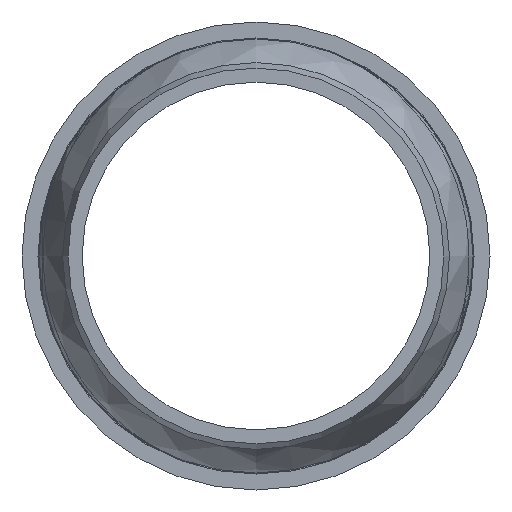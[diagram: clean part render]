
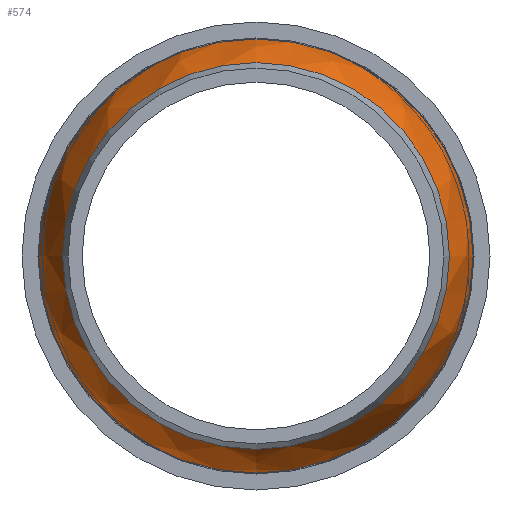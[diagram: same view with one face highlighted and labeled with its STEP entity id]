
A CAD part, left-side view. The second image highlights one B-rep face of the part: STEP entity #574.
In plain terms, the highlighted free-form (B-spline) face has degree [2, 2] with [3, 9] control points.
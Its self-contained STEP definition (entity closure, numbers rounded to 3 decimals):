
#12=(
BOUNDED_CURVE()
B_SPLINE_CURVE(2,(#2121,#2122,#2123),.UNSPECIFIED.,.F.,.F.)
B_SPLINE_CURVE_WITH_KNOTS((3,3),(0.097,0.624),
 .UNSPECIFIED.)
CURVE()
GEOMETRIC_REPRESENTATION_ITEM()
RATIONAL_B_SPLINE_CURVE((1.,0.965,1.))
REPRESENTATION_ITEM('')
);
#14=(
BOUNDED_SURFACE()
B_SPLINE_SURFACE(2,2,((#2094,#2095,#2096,#2097,#2098,#2099,#2100,#2101,
#2102),(#2103,#2104,#2105,#2106,#2107,#2108,#2109,#2110,#2111),(#2112,#2113,
#2114,#2115,#2116,#2117,#2118,#2119,#2120)),.UNSPECIFIED.,.F.,.T.,.F.)
B_SPLINE_SURFACE_WITH_KNOTS((3,3),(3,2,2,2,3),(-0.624,-0.097),
(-3.142,-1.571,0.,1.571,3.142),
 .UNSPECIFIED.)
GEOMETRIC_REPRESENTATION_ITEM()
RATIONAL_B_SPLINE_SURFACE(((1.,0.707,1.,0.707,1.,
0.707,1.,0.707,1.),(0.965,0.683,
0.965,0.683,0.965,0.683,
0.965,0.683,0.965),(1.,0.707,
1.,0.707,1.,0.707,1.,0.707,1.)))
REPRESENTATION_ITEM('')
SURFACE()
);
#147=FACE_OUTER_BOUND('',#206,.T.);
#206=EDGE_LOOP('',(#480,#481,#482,#483,#484,#485,#486));
#234=CIRCLE('',#616,42.2);
#235=CIRCLE('',#617,42.2);
#236=CIRCLE('',#618,42.2);
#242=CIRCLE('',#637,37.6);
#243=CIRCLE('',#638,37.6);
#278=VERTEX_POINT('',#1437);
#287=VERTEX_POINT('',#1829);
#288=VERTEX_POINT('',#1830);
#299=VERTEX_POINT('',#2090);
#300=VERTEX_POINT('',#2091);
#349=EDGE_CURVE('',#287,#288,#234,.T.);
#350=EDGE_CURVE('',#288,#278,#235,.T.);
#351=EDGE_CURVE('',#278,#287,#236,.T.);
#363=EDGE_CURVE('',#299,#300,#242,.T.);
#364=EDGE_CURVE('',#300,#299,#243,.T.);
#365=EDGE_CURVE('',#288,#300,#12,.T.);
#480=ORIENTED_EDGE('',*,*,#349,.F.);
#481=ORIENTED_EDGE('',*,*,#351,.F.);
#482=ORIENTED_EDGE('',*,*,#350,.F.);
#483=ORIENTED_EDGE('',*,*,#365,.T.);
#484=ORIENTED_EDGE('',*,*,#364,.T.);
#485=ORIENTED_EDGE('',*,*,#363,.T.);
#486=ORIENTED_EDGE('',*,*,#365,.F.);
#574=ADVANCED_FACE('',(#147),#14,.F.);
#616=AXIS2_PLACEMENT_3D('',#1831,#712,#713);
#617=AXIS2_PLACEMENT_3D('',#1832,#714,#715);
#618=AXIS2_PLACEMENT_3D('',#1833,#716,#717);
#637=AXIS2_PLACEMENT_3D('',#2092,#754,#755);
#638=AXIS2_PLACEMENT_3D('',#2093,#756,#757);
#712=DIRECTION('center_axis',(1.,0.,0.));
#713=DIRECTION('ref_axis',(0.,0.,
1.));
#714=DIRECTION('center_axis',(1.,0.,0.));
#715=DIRECTION('ref_axis',(0.,0.,
1.));
#716=DIRECTION('center_axis',(1.,0.,0.));
#717=DIRECTION('ref_axis',(0.,0.,
1.));
#754=DIRECTION('center_axis',(1.,0.,0.));
#755=DIRECTION('ref_axis',(0.,0.,
1.));
#756=DIRECTION('center_axis',(1.,0.,0.));
#757=DIRECTION('ref_axis',(0.,0.,
1.));
#1437=CARTESIAN_POINT('',(758.8,42.2,0.));
#1829=CARTESIAN_POINT('',(758.8,-42.2,0.));
#1830=CARTESIAN_POINT('',(758.8,0.,-42.2));
#1831=CARTESIAN_POINT('Origin',(758.8,0.,
0.));
#1832=CARTESIAN_POINT('Origin',(758.8,0.,
0.));
#1833=CARTESIAN_POINT('Origin',(758.8,0.,
0.));
#2090=CARTESIAN_POINT('',(746.6,-37.6,0.));
#2091=CARTESIAN_POINT('',(746.6,0.,-37.6));
#2092=CARTESIAN_POINT('Origin',(746.6,0.,
0.));
#2093=CARTESIAN_POINT('Origin',(746.6,0.,
0.));
#2094=CARTESIAN_POINT('Ctrl Pts',(746.6,0.,
-37.6));
#2095=CARTESIAN_POINT('Ctrl Pts',(746.6,37.6,-37.6));
#2096=CARTESIAN_POINT('Ctrl Pts',(746.6,37.6,0.));
#2097=CARTESIAN_POINT('Ctrl Pts',(746.6,37.6,37.6));
#2098=CARTESIAN_POINT('Ctrl Pts',(746.6,0.,
37.6));
#2099=CARTESIAN_POINT('Ctrl Pts',(746.6,-37.6,37.6));
#2100=CARTESIAN_POINT('Ctrl Pts',(746.6,-37.6,0.));
#2101=CARTESIAN_POINT('Ctrl Pts',(746.6,-37.6,-37.6));
#2102=CARTESIAN_POINT('Ctrl Pts',(746.6,0.,
-37.6));
#2103=CARTESIAN_POINT('Ctrl Pts',(752.079,0.,
-41.548));
#2104=CARTESIAN_POINT('Ctrl Pts',(752.079,41.548,-41.548));
#2105=CARTESIAN_POINT('Ctrl Pts',(752.079,41.548,0.));
#2106=CARTESIAN_POINT('Ctrl Pts',(752.079,41.548,41.548));
#2107=CARTESIAN_POINT('Ctrl Pts',(752.079,0.,
41.548));
#2108=CARTESIAN_POINT('Ctrl Pts',(752.079,-41.548,41.548));
#2109=CARTESIAN_POINT('Ctrl Pts',(752.079,-41.548,0.));
#2110=CARTESIAN_POINT('Ctrl Pts',(752.079,-41.548,-41.548));
#2111=CARTESIAN_POINT('Ctrl Pts',(752.079,0.,
-41.548));
#2112=CARTESIAN_POINT('Ctrl Pts',(758.8,0.,
-42.2));
#2113=CARTESIAN_POINT('Ctrl Pts',(758.8,42.2,-42.2));
#2114=CARTESIAN_POINT('Ctrl Pts',(758.8,42.2,0.));
#2115=CARTESIAN_POINT('Ctrl Pts',(758.8,42.2,42.2));
#2116=CARTESIAN_POINT('Ctrl Pts',(758.8,0.,
42.2));
#2117=CARTESIAN_POINT('Ctrl Pts',(758.8,-42.2,42.2));
#2118=CARTESIAN_POINT('Ctrl Pts',(758.8,-42.2,0.));
#2119=CARTESIAN_POINT('Ctrl Pts',(758.8,-42.2,-42.2));
#2120=CARTESIAN_POINT('Ctrl Pts',(758.8,0.,
-42.2));
#2121=CARTESIAN_POINT('Ctrl Pts',(758.8,0.,
-42.2));
#2122=CARTESIAN_POINT('Ctrl Pts',(752.079,0.,
-41.548));
#2123=CARTESIAN_POINT('Ctrl Pts',(746.6,0.,
-37.6));
